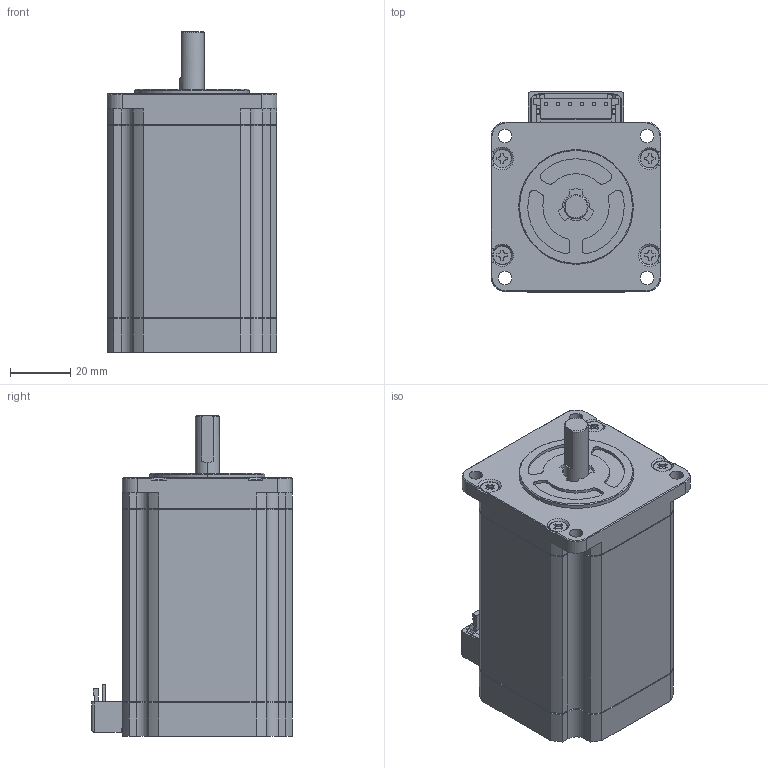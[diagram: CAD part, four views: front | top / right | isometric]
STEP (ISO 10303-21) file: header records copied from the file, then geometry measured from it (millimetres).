
FILE_DESCRIPTION (( 'STEP AP203' ), '1' );
FILE_NAME ('SM2564C10U41.STEP', '2021-05-07T07:38:30', ( '' ), ( '' ), 'SwSTEP 2.0', 'SolidWorks 2019', '' );
FILE_SCHEMA (( 'CONFIG_CONTROL_DESIGN' ));
Length unit declared in the file: millimetre
Products named in the file (10): Copy of FRONT COVER^01124257; SM2564C10U41; Copy of REAR COVER^01124257; Copy of CONNECTOR^Copy of TERMINAL_01124257; Copy of SCREW^01124257; Copy of OUTPUT SHAFT^01124257; Copy of STATOR^01124257; Copy of INSULATOR_REAR^01124257_コネクタタイプ（10.1L）; Copy of SUBSTRATE^Copy of TERMINAL_01124257; Copy of TERMINAL^01124257
Assembly tree (12 placements, depth 3):
  SM2564C10U41
    Copy of FRONT COVER^01124257
    Copy of STATOR^01124257
    Copy of INSULATOR_REAR^01124257_コネクタタイプ（10.1L）
    Copy of TERMINAL^01124257
      Copy of SUBSTRATE^Copy of TERMINAL_01124257
      Copy of CONNECTOR^Copy of TERMINAL_01124257
    Copy of REAR COVER^01124257
    Copy of OUTPUT SHAFT^01124257
    Copy of SCREW^01124257  x4
Bounding box: 56.4 x 66.6 x 106.35 mm (x, y, z)
Volume: 265233.2 mm3; surface area: 47055.6 mm2
Topology: 11 solids, 11 shells, 622 faces, 1619 edges, 1045 vertices
Faces by surface type: plane 402, cylinder 159, cone 61
Entity records: 18074 total; most frequent: CARTESIAN_POINT 3089, ORIENTED_EDGE 2890, DIRECTION 2874, EDGE_CURVE 1445, LINE 1058, VECTOR 1058, VERTEX_POINT 931, AXIS2_PLACEMENT_3D 908
